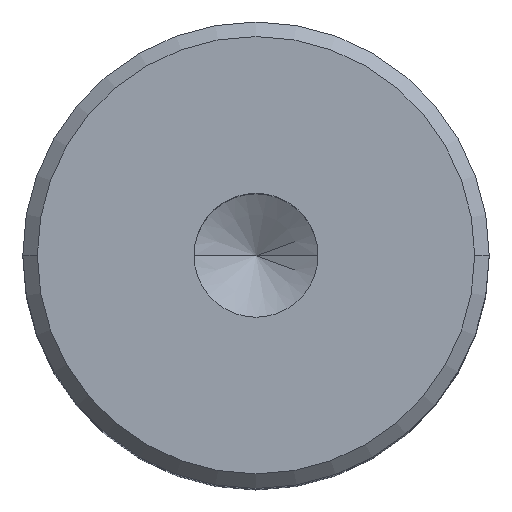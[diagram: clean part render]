
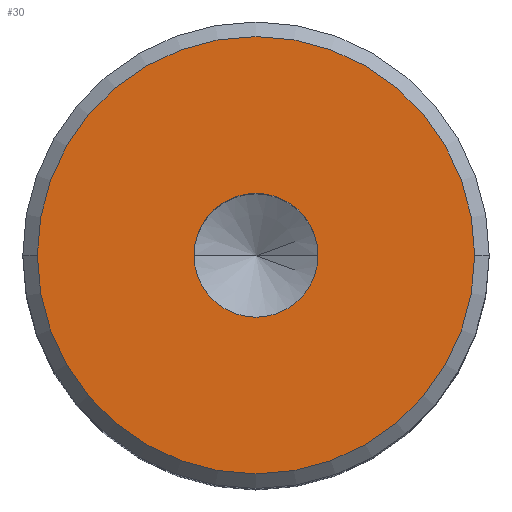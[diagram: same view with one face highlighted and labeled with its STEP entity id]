
A CAD part, top view. The second image highlights one B-rep face of the part: STEP entity #30.
In plain terms, the highlighted planar face has unit normal (0, 0, 1).
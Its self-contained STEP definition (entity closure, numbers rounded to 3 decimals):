
#13 = AXIS2_PLACEMENT_3D ( 'NONE', #71, #644, #256 ) ;
#23 = ORIENTED_EDGE ( 'NONE', *, *, #981, .F. ) ;
#30 = ADVANCED_FACE ( 'NONE', ( #756, #869 ), #444, .T. ) ;
#32 = AXIS2_PLACEMENT_3D ( 'NONE', #527, #898, #978 ) ;
#33 = CARTESIAN_POINT ( 'NONE',  ( 0., 0., 30. ) ) ;
#71 = CARTESIAN_POINT ( 'NONE',  ( 0., 0., 30. ) ) ;
#84 = AXIS2_PLACEMENT_3D ( 'NONE', #33, #612, #116 ) ;
#106 = DIRECTION ( 'NONE',  ( -1., 0., 0. ) ) ;
#116 = DIRECTION ( 'NONE',  ( 1., 0., 0. ) ) ;
#152 = VERTEX_POINT ( 'NONE', #220 ) ;
#198 = DIRECTION ( 'NONE',  ( 0., 0., -1. ) ) ;
#220 = CARTESIAN_POINT ( 'NONE',  ( -15., 0., 30. ) ) ;
#238 = AXIS2_PLACEMENT_3D ( 'NONE', #973, #286, #369 ) ;
#255 = EDGE_LOOP ( 'NONE', ( #814, #815 ) ) ;
#256 = DIRECTION ( 'NONE',  ( 1., 0., 0. ) ) ;
#279 = EDGE_CURVE ( 'NONE', #571, #962, #387, .T. ) ;
#286 = DIRECTION ( 'NONE',  ( 0., 0., 1. ) ) ;
#364 = EDGE_LOOP ( 'NONE', ( #23, #795 ) ) ;
#368 = CARTESIAN_POINT ( 'NONE',  ( 15., 0., 30. ) ) ;
#369 = DIRECTION ( 'NONE',  ( 1., 0., 0. ) ) ;
#387 = CIRCLE ( 'NONE', #13, 4.25 ) ;
#444 = PLANE ( 'NONE',  #238 ) ;
#451 = VERTEX_POINT ( 'NONE', #368 ) ;
#471 = CARTESIAN_POINT ( 'NONE',  ( 4.25, 0., 30. ) ) ;
#487 = EDGE_CURVE ( 'NONE', #152, #451, #1014, .T. ) ;
#527 = CARTESIAN_POINT ( 'NONE',  ( 0., 0., 30. ) ) ;
#571 = VERTEX_POINT ( 'NONE', #471 ) ;
#580 = AXIS2_PLACEMENT_3D ( 'NONE', #983, #198, #106 ) ;
#612 = DIRECTION ( 'NONE',  ( 0., 0., 1. ) ) ;
#644 = DIRECTION ( 'NONE',  ( 0., 0., 1. ) ) ;
#682 = CIRCLE ( 'NONE', #84, 4.25 ) ;
#715 = CIRCLE ( 'NONE', #32, 15. ) ;
#756 = FACE_BOUND ( 'NONE', #255, .T. ) ;
#795 = ORIENTED_EDGE ( 'NONE', *, *, #487, .F. ) ;
#814 = ORIENTED_EDGE ( 'NONE', *, *, #279, .F. ) ;
#815 = ORIENTED_EDGE ( 'NONE', *, *, #986, .F. ) ;
#816 = CARTESIAN_POINT ( 'NONE',  ( -4.25, 0., 30. ) ) ;
#869 = FACE_OUTER_BOUND ( 'NONE', #364, .T. ) ;
#898 = DIRECTION ( 'NONE',  ( 0., 0., -1. ) ) ;
#962 = VERTEX_POINT ( 'NONE', #816 ) ;
#973 = CARTESIAN_POINT ( 'NONE',  ( -19.5, -31.177, 30. ) ) ;
#978 = DIRECTION ( 'NONE',  ( -1., 0., 0. ) ) ;
#981 = EDGE_CURVE ( 'NONE', #451, #152, #715, .T. ) ;
#983 = CARTESIAN_POINT ( 'NONE',  ( 0., 0., 30. ) ) ;
#986 = EDGE_CURVE ( 'NONE', #962, #571, #682, .T. ) ;
#1014 = CIRCLE ( 'NONE', #580, 15. ) ;
